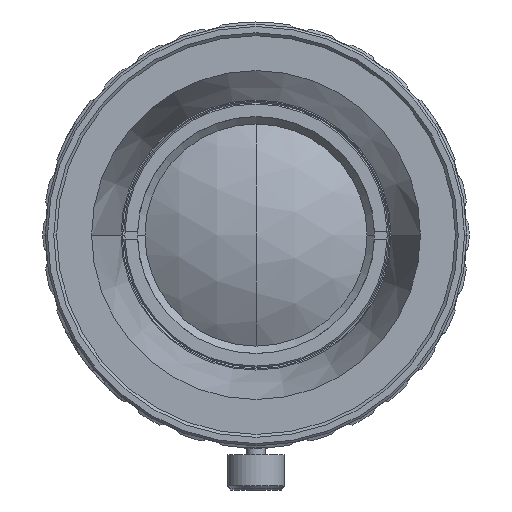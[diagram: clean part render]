
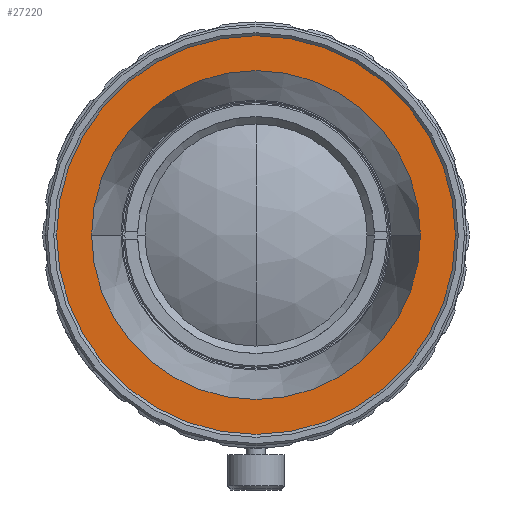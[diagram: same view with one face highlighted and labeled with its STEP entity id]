
A CAD part, front view. The second image highlights one B-rep face of the part: STEP entity #27220.
In plain terms, the highlighted planar face has unit normal (0, -1, 0).
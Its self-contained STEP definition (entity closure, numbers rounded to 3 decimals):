
#814 = FACE_BOUND ( 'NONE', #16522, .T. ) ;
#979 = CARTESIAN_POINT ( 'NONE',  ( 17.75, -59.66, 0. ) ) ;
#1448 = AXIS2_PLACEMENT_3D ( 'NONE', #24447, #6457, #27491 ) ;
#1694 = VERTEX_POINT ( 'NONE', #979 ) ;
#4011 = DIRECTION ( 'NONE',  ( -1., 0., 0. ) ) ;
#5966 = DIRECTION ( 'NONE',  ( 0., -1., 0. ) ) ;
#6354 = CIRCLE ( 'NONE', #37045, 14.431 ) ;
#6359 = CIRCLE ( 'NONE', #38914, 17.75 ) ;
#6457 = DIRECTION ( 'NONE',  ( 0., -1., 0. ) ) ;
#8128 = VERTEX_POINT ( 'NONE', #32151 ) ;
#10696 = DIRECTION ( 'NONE',  ( 0., -1., 0. ) ) ;
#11515 = EDGE_CURVE ( 'NONE', #8128, #13593, #6354, .T. ) ;
#12977 = PLANE ( 'NONE',  #13574 ) ;
#13574 = AXIS2_PLACEMENT_3D ( 'NONE', #15994, #22016, #4011 ) ;
#13593 = VERTEX_POINT ( 'NONE', #27510 ) ;
#14084 = ORIENTED_EDGE ( 'NONE', *, *, #11515, .F. ) ;
#15925 = EDGE_CURVE ( 'NONE', #37265, #1694, #6359, .T. ) ;
#15994 = CARTESIAN_POINT ( 'NONE',  ( 0., -59.66, 14.431 ) ) ;
#16522 = EDGE_LOOP ( 'NONE', ( #14084, #25407 ) ) ;
#17431 = DIRECTION ( 'NONE',  ( 0., -1., 0. ) ) ;
#17699 = EDGE_LOOP ( 'NONE', ( #25632, #27764 ) ) ;
#22016 = DIRECTION ( 'NONE',  ( 0., 1., 0. ) ) ;
#23243 = CIRCLE ( 'NONE', #37079, 14.431 ) ;
#23962 = CARTESIAN_POINT ( 'NONE',  ( 0., -59.66, 0. ) ) ;
#24430 = FACE_OUTER_BOUND ( 'NONE', #17699, .T. ) ;
#24447 = CARTESIAN_POINT ( 'NONE',  ( 0., -59.66, 0. ) ) ;
#25407 = ORIENTED_EDGE ( 'NONE', *, *, #36044, .F. ) ;
#25632 = ORIENTED_EDGE ( 'NONE', *, *, #33812, .T. ) ;
#27012 = DIRECTION ( 'NONE',  ( 1., 0., 0. ) ) ;
#27220 = ADVANCED_FACE ( 'NONE', ( #814, #24430 ), #12977, .F. ) ;
#27491 = DIRECTION ( 'NONE',  ( 1., 0., 0. ) ) ;
#27510 = CARTESIAN_POINT ( 'NONE',  ( -14.431, -59.66, 0. ) ) ;
#27764 = ORIENTED_EDGE ( 'NONE', *, *, #15925, .T. ) ;
#28701 = CARTESIAN_POINT ( 'NONE',  ( 0., -59.66, 0. ) ) ;
#31680 = DIRECTION ( 'NONE',  ( 1., 0., 0. ) ) ;
#32151 = CARTESIAN_POINT ( 'NONE',  ( 14.431, -59.66, 0. ) ) ;
#33812 = EDGE_CURVE ( 'NONE', #1694, #37265, #33931, .T. ) ;
#33931 = CIRCLE ( 'NONE', #1448, 17.75 ) ;
#35417 = CARTESIAN_POINT ( 'NONE',  ( 0., -59.66, 0. ) ) ;
#36044 = EDGE_CURVE ( 'NONE', #13593, #8128, #23243, .T. ) ;
#36868 = CARTESIAN_POINT ( 'NONE',  ( -17.75, -59.66, 0. ) ) ;
#37045 = AXIS2_PLACEMENT_3D ( 'NONE', #35417, #17431, #38467 ) ;
#37079 = AXIS2_PLACEMENT_3D ( 'NONE', #23962, #5966, #27012 ) ;
#37265 = VERTEX_POINT ( 'NONE', #36868 ) ;
#38467 = DIRECTION ( 'NONE',  ( 1., 0., 0. ) ) ;
#38914 = AXIS2_PLACEMENT_3D ( 'NONE', #28701, #10696, #31680 ) ;
